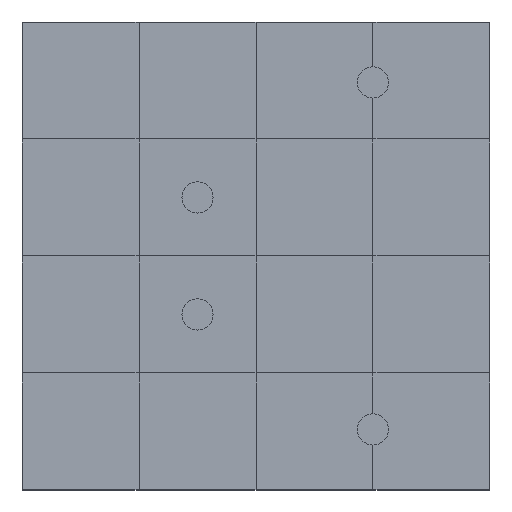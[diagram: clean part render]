
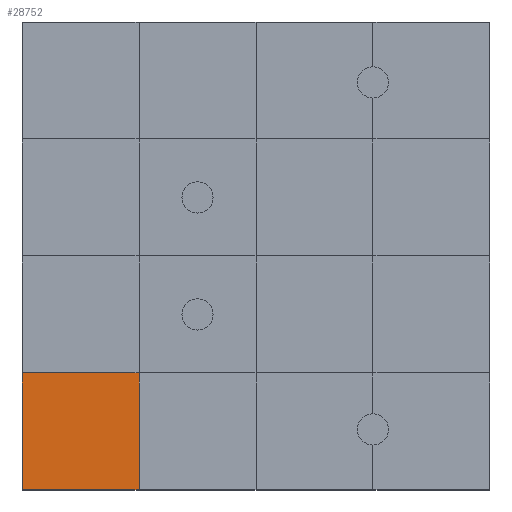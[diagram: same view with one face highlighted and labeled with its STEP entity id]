
A CAD part, top view. The second image highlights one B-rep face of the part: STEP entity #28752.
In plain terms, the highlighted planar face has unit normal (0, 0, 1).
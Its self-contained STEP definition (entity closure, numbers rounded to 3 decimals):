
#28563 = VERTEX_POINT('',#28564);
#28564 = CARTESIAN_POINT('',(0.,0.,1.5));
#28571 = PLANE('',#28572);
#28572 = AXIS2_PLACEMENT_3D('',#28573,#28574,#28575);
#28573 = CARTESIAN_POINT('',(0.,0.,0.));
#28574 = DIRECTION('',(1.,0.,-0.));
#28575 = DIRECTION('',(0.,0.,1.));
#28583 = PLANE('',#28584);
#28584 = AXIS2_PLACEMENT_3D('',#28585,#28586,#28587);
#28585 = CARTESIAN_POINT('',(0.,0.,0.));
#28586 = DIRECTION('',(-0.,1.,0.));
#28587 = DIRECTION('',(0.,0.,1.));
#28624 = VERTEX_POINT('',#28625);
#28625 = CARTESIAN_POINT('',(0.,3.,1.5));
#28651 = EDGE_CURVE('',#28563,#28624,#28652,.T.);
#28652 = SURFACE_CURVE('',#28653,(#28657,#28664),.PCURVE_S1.);
#28653 = LINE('',#28654,#28655);
#28654 = CARTESIAN_POINT('',(0.,0.,1.5));
#28655 = VECTOR('',#28656,1.);
#28656 = DIRECTION('',(-0.,1.,0.));
#28657 = PCURVE('',#28571,#28658);
#28658 = DEFINITIONAL_REPRESENTATION('',(#28659),#28663);
#28659 = LINE('',#28660,#28661);
#28660 = CARTESIAN_POINT('',(1.5,0.));
#28661 = VECTOR('',#28662,1.);
#28662 = DIRECTION('',(0.,-1.));
#28663 = ( GEOMETRIC_REPRESENTATION_CONTEXT(2) 
PARAMETRIC_REPRESENTATION_CONTEXT() REPRESENTATION_CONTEXT('2D SPACE',''
  ) );
#28664 = PCURVE('',#28665,#28670);
#28665 = PLANE('',#28666);
#28666 = AXIS2_PLACEMENT_3D('',#28667,#28668,#28669);
#28667 = CARTESIAN_POINT('',(0.,0.,1.5));
#28668 = DIRECTION('',(0.,0.,1.));
#28669 = DIRECTION('',(1.,0.,-0.));
#28670 = DEFINITIONAL_REPRESENTATION('',(#28671),#28675);
#28671 = LINE('',#28672,#28673);
#28672 = CARTESIAN_POINT('',(0.,0.));
#28673 = VECTOR('',#28674,1.);
#28674 = DIRECTION('',(0.,1.));
#28675 = ( GEOMETRIC_REPRESENTATION_CONTEXT(2) 
PARAMETRIC_REPRESENTATION_CONTEXT() REPRESENTATION_CONTEXT('2D SPACE',''
  ) );
#28704 = EDGE_CURVE('',#28563,#28705,#28707,.T.);
#28705 = VERTEX_POINT('',#28706);
#28706 = CARTESIAN_POINT('',(3.,0.,1.5));
#28707 = SURFACE_CURVE('',#28708,(#28712,#28719),.PCURVE_S1.);
#28708 = LINE('',#28709,#28710);
#28709 = CARTESIAN_POINT('',(0.,0.,1.5));
#28710 = VECTOR('',#28711,1.);
#28711 = DIRECTION('',(1.,0.,-0.));
#28712 = PCURVE('',#28583,#28713);
#28713 = DEFINITIONAL_REPRESENTATION('',(#28714),#28718);
#28714 = LINE('',#28715,#28716);
#28715 = CARTESIAN_POINT('',(1.5,0.));
#28716 = VECTOR('',#28717,1.);
#28717 = DIRECTION('',(0.,1.));
#28718 = ( GEOMETRIC_REPRESENTATION_CONTEXT(2) 
PARAMETRIC_REPRESENTATION_CONTEXT() REPRESENTATION_CONTEXT('2D SPACE',''
  ) );
#28719 = PCURVE('',#28665,#28720);
#28720 = DEFINITIONAL_REPRESENTATION('',(#28721),#28725);
#28721 = LINE('',#28722,#28723);
#28722 = CARTESIAN_POINT('',(0.,0.));
#28723 = VECTOR('',#28724,1.);
#28724 = DIRECTION('',(1.,0.));
#28725 = ( GEOMETRIC_REPRESENTATION_CONTEXT(2) 
PARAMETRIC_REPRESENTATION_CONTEXT() REPRESENTATION_CONTEXT('2D SPACE',''
  ) );
#28752 = ADVANCED_FACE('',(#28753),#28665,.T.);
#28753 = FACE_BOUND('',#28754,.T.);
#28754 = EDGE_LOOP('',(#28755,#28756,#28757,#28785));
#28755 = ORIENTED_EDGE('',*,*,#28651,.F.);
#28756 = ORIENTED_EDGE('',*,*,#28704,.T.);
#28757 = ORIENTED_EDGE('',*,*,#28758,.T.);
#28758 = EDGE_CURVE('',#28705,#28759,#28761,.T.);
#28759 = VERTEX_POINT('',#28760);
#28760 = CARTESIAN_POINT('',(3.,3.,1.5));
#28761 = SURFACE_CURVE('',#28762,(#28766,#28773),.PCURVE_S1.);
#28762 = LINE('',#28763,#28764);
#28763 = CARTESIAN_POINT('',(3.,0.,1.5));
#28764 = VECTOR('',#28765,1.);
#28765 = DIRECTION('',(-0.,1.,0.));
#28766 = PCURVE('',#28665,#28767);
#28767 = DEFINITIONAL_REPRESENTATION('',(#28768),#28772);
#28768 = LINE('',#28769,#28770);
#28769 = CARTESIAN_POINT('',(3.,0.));
#28770 = VECTOR('',#28771,1.);
#28771 = DIRECTION('',(0.,1.));
#28772 = ( GEOMETRIC_REPRESENTATION_CONTEXT(2) 
PARAMETRIC_REPRESENTATION_CONTEXT() REPRESENTATION_CONTEXT('2D SPACE',''
  ) );
#28773 = PCURVE('',#28774,#28779);
#28774 = PLANE('',#28775);
#28775 = AXIS2_PLACEMENT_3D('',#28776,#28777,#28778);
#28776 = CARTESIAN_POINT('',(3.,0.,1.5));
#28777 = DIRECTION('',(0.,0.,1.));
#28778 = DIRECTION('',(1.,0.,-0.));
#28779 = DEFINITIONAL_REPRESENTATION('',(#28780),#28784);
#28780 = LINE('',#28781,#28782);
#28781 = CARTESIAN_POINT('',(0.,0.));
#28782 = VECTOR('',#28783,1.);
#28783 = DIRECTION('',(0.,1.));
#28784 = ( GEOMETRIC_REPRESENTATION_CONTEXT(2) 
PARAMETRIC_REPRESENTATION_CONTEXT() REPRESENTATION_CONTEXT('2D SPACE',''
  ) );
#28785 = ORIENTED_EDGE('',*,*,#28786,.F.);
#28786 = EDGE_CURVE('',#28624,#28759,#28787,.T.);
#28787 = SURFACE_CURVE('',#28788,(#28792,#28799),.PCURVE_S1.);
#28788 = LINE('',#28789,#28790);
#28789 = CARTESIAN_POINT('',(0.,3.,1.5));
#28790 = VECTOR('',#28791,1.);
#28791 = DIRECTION('',(1.,0.,-0.));
#28792 = PCURVE('',#28665,#28793);
#28793 = DEFINITIONAL_REPRESENTATION('',(#28794),#28798);
#28794 = LINE('',#28795,#28796);
#28795 = CARTESIAN_POINT('',(0.,3.));
#28796 = VECTOR('',#28797,1.);
#28797 = DIRECTION('',(1.,0.));
#28798 = ( GEOMETRIC_REPRESENTATION_CONTEXT(2) 
PARAMETRIC_REPRESENTATION_CONTEXT() REPRESENTATION_CONTEXT('2D SPACE',''
  ) );
#28799 = PCURVE('',#28800,#28805);
#28800 = PLANE('',#28801);
#28801 = AXIS2_PLACEMENT_3D('',#28802,#28803,#28804);
#28802 = CARTESIAN_POINT('',(0.,3.,1.5));
#28803 = DIRECTION('',(0.,0.,1.));
#28804 = DIRECTION('',(1.,0.,-0.));
#28805 = DEFINITIONAL_REPRESENTATION('',(#28806),#28810);
#28806 = LINE('',#28807,#28808);
#28807 = CARTESIAN_POINT('',(0.,0.));
#28808 = VECTOR('',#28809,1.);
#28809 = DIRECTION('',(1.,0.));
#28810 = ( GEOMETRIC_REPRESENTATION_CONTEXT(2) 
PARAMETRIC_REPRESENTATION_CONTEXT() REPRESENTATION_CONTEXT('2D SPACE',''
  ) );
